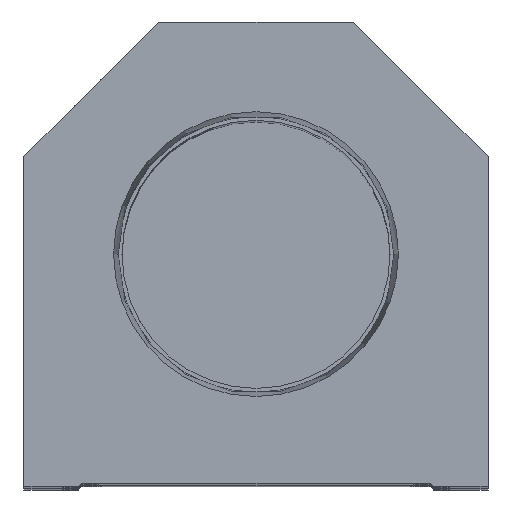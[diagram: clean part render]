
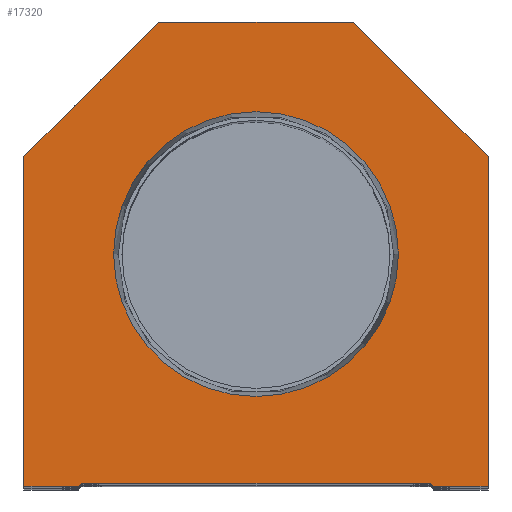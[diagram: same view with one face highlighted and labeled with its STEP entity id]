
A CAD part, top view. The second image highlights one B-rep face of the part: STEP entity #17320.
In plain terms, the highlighted planar face has unit normal (0, 0, 1).
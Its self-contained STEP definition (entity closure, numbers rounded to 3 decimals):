
#360 = ORIENTED_EDGE ( 'NONE', *, *, #14450, .F. ) ;
#788 = VERTEX_POINT ( 'NONE', #22409 ) ;
#2001 = EDGE_CURVE ( 'NONE', #16347, #5353, #17818, .T. ) ;
#2047 = VERTEX_POINT ( 'NONE', #7507 ) ;
#2220 = VECTOR ( 'NONE', #16128, 1000. ) ;
#2241 = EDGE_CURVE ( 'NONE', #14232, #9822, #13692, .T. ) ;
#2299 = CARTESIAN_POINT ( 'NONE',  ( 0., 0., 0. ) ) ;
#2522 = PLANE ( 'NONE',  #7910 ) ;
#2643 = VECTOR ( 'NONE', #17629, 1000. ) ;
#2647 = CARTESIAN_POINT ( 'NONE',  ( 29.1, 0., 0. ) ) ;
#2849 = CARTESIAN_POINT ( 'NONE',  ( 0., 38.1, 0. ) ) ;
#3158 = LINE ( 'NONE', #8406, #5492 ) ;
#3785 = DIRECTION ( 'NONE',  ( 1., 0., 0. ) ) ;
#4072 = CARTESIAN_POINT ( 'NONE',  ( 38.1, 0., 0. ) ) ;
#4525 = EDGE_CURVE ( 'NONE', #2047, #788, #4599, .T. ) ;
#4599 = LINE ( 'NONE', #6538, #16406 ) ;
#4632 = VERTEX_POINT ( 'NONE', #14716 ) ;
#4941 = CARTESIAN_POINT ( 'NONE',  ( -38.1, 54.1, 0. ) ) ;
#5184 = CARTESIAN_POINT ( 'NONE',  ( -38.1, 0., 0. ) ) ;
#5245 = VERTEX_POINT ( 'NONE', #17556 ) ;
#5353 = VERTEX_POINT ( 'NONE', #2647 ) ;
#5492 = VECTOR ( 'NONE', #20138, 1000. ) ;
#5497 = DIRECTION ( 'NONE',  ( 0., 0., 1. ) ) ;
#5798 = CARTESIAN_POINT ( 'NONE',  ( -14.55, 14.55, 0. ) ) ;
#6135 = DIRECTION ( 'NONE',  ( 0., 0., 1. ) ) ;
#6538 = CARTESIAN_POINT ( 'NONE',  ( 38.1, 54.1, 0. ) ) ;
#6635 = VERTEX_POINT ( 'NONE', #21158 ) ;
#6688 = AXIS2_PLACEMENT_3D ( 'NONE', #20148, #6135, #13065 ) ;
#7200 = LINE ( 'NONE', #14229, #2643 ) ;
#7302 = CARTESIAN_POINT ( 'NONE',  ( 16., 76.2, 0. ) ) ;
#7422 = CIRCLE ( 'NONE', #6688, 23.374 ) ;
#7507 = CARTESIAN_POINT ( 'NONE',  ( 38.1, 54.1, 0. ) ) ;
#7643 = LINE ( 'NONE', #7302, #21960 ) ;
#7910 = AXIS2_PLACEMENT_3D ( 'NONE', #2299, #5497, #3785 ) ;
#8342 = ORIENTED_EDGE ( 'NONE', *, *, #14318, .T. ) ;
#8406 = CARTESIAN_POINT ( 'NONE',  ( -28.6, 0.5, 0. ) ) ;
#9226 = DIRECTION ( 'NONE',  ( -1., 0., 0. ) ) ;
#9483 = FACE_BOUND ( 'NONE', #12962, .T. ) ;
#9801 = DIRECTION ( 'NONE',  ( 0., 0., 1. ) ) ;
#9822 = VERTEX_POINT ( 'NONE', #21833 ) ;
#9909 = ORIENTED_EDGE ( 'NONE', *, *, #13780, .T. ) ;
#10044 = ORIENTED_EDGE ( 'NONE', *, *, #4525, .T. ) ;
#10174 = DIRECTION ( 'NONE',  ( -0.707, -0.707, 0. ) ) ;
#10768 = EDGE_CURVE ( 'NONE', #4632, #16347, #3158, .T. ) ;
#10806 = VERTEX_POINT ( 'NONE', #16694 ) ;
#11277 = AXIS2_PLACEMENT_3D ( 'NONE', #2849, #9801, #13654 ) ;
#11556 = ORIENTED_EDGE ( 'NONE', *, *, #10768, .T. ) ;
#11670 = EDGE_LOOP ( 'NONE', ( #15879, #9909, #11556, #13559, #16720, #15967, #10044, #8342, #21414, #16640 ) ) ;
#12015 = VERTEX_POINT ( 'NONE', #19544 ) ;
#12216 = LINE ( 'NONE', #17199, #20483 ) ;
#12369 = EDGE_CURVE ( 'NONE', #5245, #13168, #7200, .T. ) ;
#12401 = DIRECTION ( 'NONE',  ( 0.707, 0.707, 0. ) ) ;
#12962 = EDGE_LOOP ( 'NONE', ( #19464, #360 ) ) ;
#13065 = DIRECTION ( 'NONE',  ( 1., 0., 0. ) ) ;
#13168 = VERTEX_POINT ( 'NONE', #18829 ) ;
#13559 = ORIENTED_EDGE ( 'NONE', *, *, #2001, .T. ) ;
#13654 = DIRECTION ( 'NONE',  ( 1., 0., 0. ) ) ;
#13692 = LINE ( 'NONE', #4941, #19312 ) ;
#13694 = DIRECTION ( 'NONE',  ( -0.707, 0.707, 0. ) ) ;
#13780 = EDGE_CURVE ( 'NONE', #13168, #4632, #21075, .T. ) ;
#13822 = LINE ( 'NONE', #5184, #20708 ) ;
#13889 = CARTESIAN_POINT ( 'NONE',  ( -16., 76.2, 0. ) ) ;
#14107 = EDGE_CURVE ( 'NONE', #5353, #12015, #12216, .T. ) ;
#14229 = CARTESIAN_POINT ( 'NONE',  ( -28.6, 0., 0. ) ) ;
#14232 = VERTEX_POINT ( 'NONE', #13889 ) ;
#14318 = EDGE_CURVE ( 'NONE', #788, #14232, #7643, .T. ) ;
#14450 = EDGE_CURVE ( 'NONE', #10806, #6635, #7422, .T. ) ;
#14716 = CARTESIAN_POINT ( 'NONE',  ( -28.6, 0.5, 0. ) ) ;
#15879 = ORIENTED_EDGE ( 'NONE', *, *, #12369, .T. ) ;
#15967 = ORIENTED_EDGE ( 'NONE', *, *, #22504, .T. ) ;
#16128 = DIRECTION ( 'NONE',  ( 0., 1., 0. ) ) ;
#16347 = VERTEX_POINT ( 'NONE', #17542 ) ;
#16398 = FACE_OUTER_BOUND ( 'NONE', #11670, .T. ) ;
#16406 = VECTOR ( 'NONE', #13694, 1000. ) ;
#16454 = VECTOR ( 'NONE', #12401, 1000. ) ;
#16640 = ORIENTED_EDGE ( 'NONE', *, *, #20544, .T. ) ;
#16694 = CARTESIAN_POINT ( 'NONE',  ( -23.374, 38.1, 0. ) ) ;
#16720 = ORIENTED_EDGE ( 'NONE', *, *, #14107, .T. ) ;
#17199 = CARTESIAN_POINT ( 'NONE',  ( 28.6, 0., 0. ) ) ;
#17313 = DIRECTION ( 'NONE',  ( 1., 0., 0. ) ) ;
#17320 = ADVANCED_FACE ( 'NONE', ( #9483, #16398 ), #2522, .T. ) ;
#17374 = CARTESIAN_POINT ( 'NONE',  ( 14.55, 14.55, 0. ) ) ;
#17542 = CARTESIAN_POINT ( 'NONE',  ( 28.6, 0.5, 0. ) ) ;
#17556 = CARTESIAN_POINT ( 'NONE',  ( -38.1, 0., 0. ) ) ;
#17615 = LINE ( 'NONE', #4072, #2220 ) ;
#17629 = DIRECTION ( 'NONE',  ( 1., 0., 0. ) ) ;
#17818 = LINE ( 'NONE', #17374, #18919 ) ;
#18189 = CIRCLE ( 'NONE', #11277, 23.374 ) ;
#18829 = CARTESIAN_POINT ( 'NONE',  ( -29.1, 0., 0. ) ) ;
#18919 = VECTOR ( 'NONE', #20947, 1000. ) ;
#19312 = VECTOR ( 'NONE', #10174, 1000. ) ;
#19464 = ORIENTED_EDGE ( 'NONE', *, *, #21688, .F. ) ;
#19544 = CARTESIAN_POINT ( 'NONE',  ( 38.1, 0., 0. ) ) ;
#20138 = DIRECTION ( 'NONE',  ( 1., 0., 0. ) ) ;
#20148 = CARTESIAN_POINT ( 'NONE',  ( 0., 38.1, 0. ) ) ;
#20483 = VECTOR ( 'NONE', #17313, 1000. ) ;
#20544 = EDGE_CURVE ( 'NONE', #9822, #5245, #13822, .T. ) ;
#20708 = VECTOR ( 'NONE', #20798, 1000. ) ;
#20798 = DIRECTION ( 'NONE',  ( 0., -1., 0. ) ) ;
#20947 = DIRECTION ( 'NONE',  ( 0.707, -0.707, 0. ) ) ;
#21075 = LINE ( 'NONE', #5798, #16454 ) ;
#21158 = CARTESIAN_POINT ( 'NONE',  ( 23.374, 38.1, 0. ) ) ;
#21414 = ORIENTED_EDGE ( 'NONE', *, *, #2241, .T. ) ;
#21688 = EDGE_CURVE ( 'NONE', #6635, #10806, #18189, .T. ) ;
#21833 = CARTESIAN_POINT ( 'NONE',  ( -38.1, 54.1, 0. ) ) ;
#21960 = VECTOR ( 'NONE', #9226, 1000. ) ;
#22409 = CARTESIAN_POINT ( 'NONE',  ( 16., 76.2, 0. ) ) ;
#22504 = EDGE_CURVE ( 'NONE', #12015, #2047, #17615, .T. ) ;
